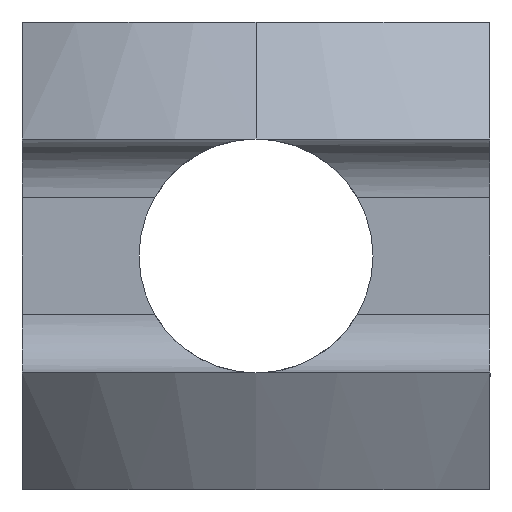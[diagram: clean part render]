
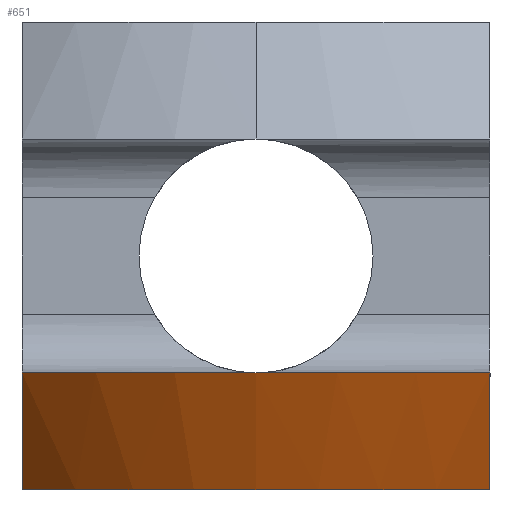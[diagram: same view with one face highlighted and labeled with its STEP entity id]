
A CAD part, left-side view. The second image highlights one B-rep face of the part: STEP entity #651.
In plain terms, the highlighted conical face has half-angle 30 degrees and reference radius 8 mm.
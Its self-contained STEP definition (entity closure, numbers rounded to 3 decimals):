
#281 = CARTESIAN_POINT ( 'NONE',  ( -27.928, 4., -2. ) ) ;
#282 = CARTESIAN_POINT ( 'NONE',  ( -27.48, 4., -2.673 ) ) ;
#283 = CARTESIAN_POINT ( 'NONE',  ( -27.024, 4., -3.341 ) ) ;
#284 = CARTESIAN_POINT ( 'NONE',  ( -26.555, 4., -4. ) ) ;
#286 = B_SPLINE_CURVE_WITH_KNOTS ( 'NONE', 3,
 ( #284, #283, #282, #281 ),
 .UNSPECIFIED., .F., .F.,
 ( 4, 4 ),
 ( 0.014, 0.017 ),
 .UNSPECIFIED. ) ;
#421 = CARTESIAN_POINT ( 'NONE',  ( -26.555, -4., -4. ) ) ;
#422 = CARTESIAN_POINT ( 'NONE',  ( -27.024, -4., -3.341 ) ) ;
#423 = CARTESIAN_POINT ( 'NONE',  ( -27.48, -4., -2.673 ) ) ;
#424 = CARTESIAN_POINT ( 'NONE',  ( -27.928, -4., -2. ) ) ;
#426 = B_SPLINE_CURVE_WITH_KNOTS ( 'NONE', 3,
 ( #424, #423, #422, #421 ),
 .UNSPECIFIED., .F., .F.,
 ( 4, 4 ),
 ( 0.006, 0.008 ),
 .UNSPECIFIED. ) ;
#428 = CARTESIAN_POINT ( 'NONE',  ( -26.555, -4., -4. ) ) ;
#545 = EDGE_CURVE ( 'NONE', #681, #675, #1124, .T. ) ;
#636 = ORIENTED_EDGE ( 'NONE', *, *, #545, .F. ) ;
#640 = ORIENTED_EDGE ( 'NONE', *, *, #859, .T. ) ;
#641 = ORIENTED_EDGE ( 'NONE', *, *, #1013, .F. ) ;
#645 = ORIENTED_EDGE ( 'NONE', *, *, #1066, .F. ) ;
#650 = EDGE_LOOP ( 'NONE', ( #636, #641, #640, #645 ) ) ;
#651 = ADVANCED_FACE ( 'NONE', ( #1304 ), #1303, .T. ) ;
#675 = VERTEX_POINT ( 'NONE', #1335 ) ;
#681 = VERTEX_POINT ( 'NONE', #1329 ) ;
#858 = VERTEX_POINT ( 'NONE', #1677 ) ;
#859 = EDGE_CURVE ( 'NONE', #858, #1064, #1676, .T. ) ;
#1013 = EDGE_CURVE ( 'NONE', #858, #681, #286, .T. ) ;
#1064 = VERTEX_POINT ( 'NONE', #428 ) ;
#1066 = EDGE_CURVE ( 'NONE', #675, #1064, #426, .T. ) ;
#1120 = DIRECTION ( 'NONE',  ( 1., 0., 0. ) ) ;
#1121 = DIRECTION ( 'NONE',  ( 0., 0., 1. ) ) ;
#1122 = CARTESIAN_POINT ( 'NONE',  ( -21., 0., -2. ) ) ;
#1123 = AXIS2_PLACEMENT_3D ( 'NONE', #1122, #1121, #1120 ) ;
#1124 = CIRCLE ( 'NONE', #1123, 8. ) ;
#1298 = DIRECTION ( 'NONE',  ( 1., 0., 0. ) ) ;
#1299 = DIRECTION ( 'NONE',  ( 0., 0., 1. ) ) ;
#1300 = CARTESIAN_POINT ( 'NONE',  ( -21., 0., -2. ) ) ;
#1301 = AXIS2_PLACEMENT_3D ( 'NONE', #1300, #1299, #1298 ) ;
#1303 = CONICAL_SURFACE ( 'NONE', #1301, 8., 0.524 ) ;
#1304 = FACE_OUTER_BOUND ( 'NONE', #650, .T. ) ;
#1329 = CARTESIAN_POINT ( 'NONE',  ( -27.928, 4., -2. ) ) ;
#1335 = CARTESIAN_POINT ( 'NONE',  ( -27.928, -4., -2. ) ) ;
#1672 = DIRECTION ( 'NONE',  ( 1., 0., 0. ) ) ;
#1673 = DIRECTION ( 'NONE',  ( 0., 0., 1. ) ) ;
#1674 = CARTESIAN_POINT ( 'NONE',  ( -21., 0., -4. ) ) ;
#1675 = AXIS2_PLACEMENT_3D ( 'NONE', #1674, #1673, #1672 ) ;
#1676 = CIRCLE ( 'NONE', #1675, 6.845 ) ;
#1677 = CARTESIAN_POINT ( 'NONE',  ( -26.555, 4., -4. ) ) ;
